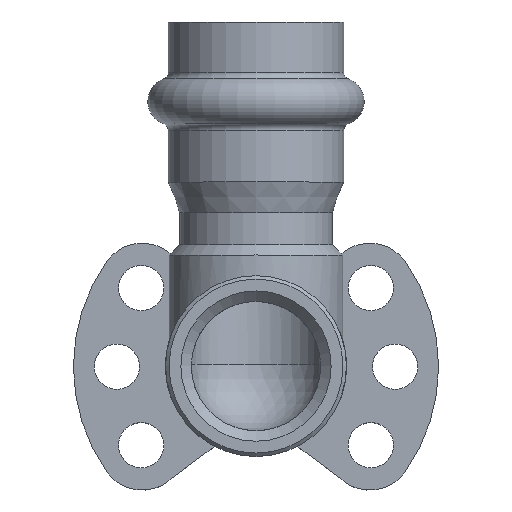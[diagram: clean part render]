
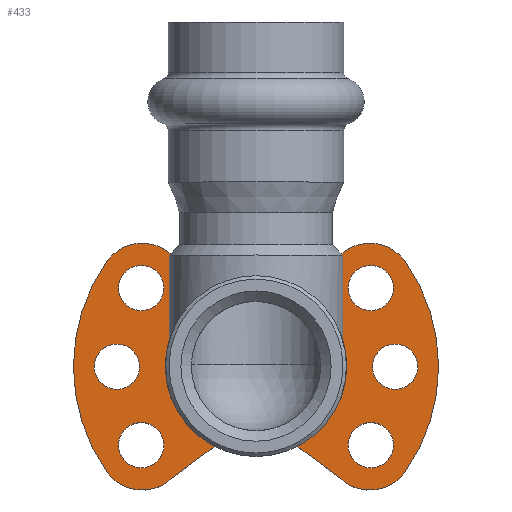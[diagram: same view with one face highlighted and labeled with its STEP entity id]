
A CAD part, top view. The second image highlights one B-rep face of the part: STEP entity #433.
In plain terms, the highlighted planar face has unit normal (0, 0, 1).
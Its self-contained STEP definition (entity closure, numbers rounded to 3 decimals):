
#433=ADVANCED_FACE('',(#3344,#3346,#3348,#3350,#3352,#3354,#3356),#3358,.F.);
#3344=FACE_BOUND('',#3345,.T.);
#3345=EDGE_LOOP('',(#8225,#8226,#8227,#8228,#8229,#8230,#8231,#8232,#8233,#8234,
#8235,#8236,#8237,#8238,#8239,#8240,#8241,#8242));
#3346=FACE_BOUND('',#3347,.T.);
#3347=EDGE_LOOP('',(#8243));
#3348=FACE_BOUND('',#3349,.T.);
#3349=EDGE_LOOP('',(#8244));
#3350=FACE_BOUND('',#3351,.T.);
#3351=EDGE_LOOP('',(#8245));
#3352=FACE_BOUND('',#3353,.T.);
#3353=EDGE_LOOP('',(#8246));
#3354=FACE_BOUND('',#3355,.T.);
#3355=EDGE_LOOP('',(#8247));
#3356=FACE_BOUND('',#3357,.T.);
#3357=EDGE_LOOP('',(#8248));
#3358=PLANE('',#3359);
#3359=AXIS2_PLACEMENT_3D('',#3360,#3361,#3362);
#3360=CARTESIAN_POINT('',(0.,0.,-16.));
#3361=DIRECTION('',(0.,0.,-1.));
#3362=DIRECTION('',(-1.,0.,0.));
#8225=ORIENTED_EDGE('',*,*,#11106,.F.);
#8226=ORIENTED_EDGE('',*,*,#11104,.T.);
#8227=ORIENTED_EDGE('',*,*,#11101,.F.);
#8228=ORIENTED_EDGE('',*,*,#11636,.F.);
#8229=ORIENTED_EDGE('',*,*,#11637,.F.);
#8230=ORIENTED_EDGE('',*,*,#11638,.F.);
#8231=ORIENTED_EDGE('',*,*,#11639,.F.);
#8232=ORIENTED_EDGE('',*,*,#11640,.F.);
#8233=ORIENTED_EDGE('',*,*,#11641,.T.);
#8234=ORIENTED_EDGE('',*,*,#11642,.T.);
#8235=ORIENTED_EDGE('',*,*,#11643,.T.);
#8236=ORIENTED_EDGE('',*,*,#11644,.T.);
#8237=ORIENTED_EDGE('',*,*,#11645,.T.);
#8238=ORIENTED_EDGE('',*,*,#11646,.T.);
#8239=ORIENTED_EDGE('',*,*,#11097,.T.);
#8240=ORIENTED_EDGE('',*,*,#11095,.T.);
#8241=ORIENTED_EDGE('',*,*,#11109,.F.);
#8242=ORIENTED_EDGE('',*,*,#11107,.T.);
#8243=ORIENTED_EDGE('',*,*,#11647,.T.);
#8244=ORIENTED_EDGE('',*,*,#11648,.T.);
#8245=ORIENTED_EDGE('',*,*,#11649,.T.);
#8246=ORIENTED_EDGE('',*,*,#11650,.F.);
#8247=ORIENTED_EDGE('',*,*,#11651,.F.);
#8248=ORIENTED_EDGE('',*,*,#11652,.F.);
#11095=EDGE_CURVE('',#13804,#13802,#13805,.T.);
#11097=EDGE_CURVE('',#13807,#13804,#13808,.T.);
#11101=EDGE_CURVE('',#13813,#13815,#13816,.T.);
#11104=EDGE_CURVE('',#13818,#13815,#13820,.F.);
#11106=EDGE_CURVE('',#13818,#13821,#13823,.F.);
#11107=EDGE_CURVE('',#13824,#13821,#13825,.F.);
#11109=EDGE_CURVE('',#13824,#13802,#13827,.F.);
#11636=EDGE_CURVE('',#14650,#13813,#14651,.T.);
#11637=EDGE_CURVE('',#14652,#14650,#14653,.T.);
#11638=EDGE_CURVE('',#14654,#14652,#14655,.T.);
#11639=EDGE_CURVE('',#14656,#14654,#14657,.T.);
#11640=EDGE_CURVE('',#14658,#14656,#14659,.T.);
#11641=EDGE_CURVE('',#14658,#14660,#14661,.T.);
#11642=EDGE_CURVE('',#14660,#14662,#14663,.T.);
#11643=EDGE_CURVE('',#14662,#14664,#14665,.T.);
#11644=EDGE_CURVE('',#14664,#14666,#14667,.T.);
#11645=EDGE_CURVE('',#14666,#14668,#14669,.T.);
#11646=EDGE_CURVE('',#14668,#13807,#14670,.T.);
#11647=EDGE_CURVE('',#14671,#14671,#14672,.T.);
#11648=EDGE_CURVE('',#14673,#14673,#14674,.T.);
#11649=EDGE_CURVE('',#14675,#14675,#14676,.T.);
#11650=EDGE_CURVE('',#14677,#14677,#14678,.T.);
#11651=EDGE_CURVE('',#14679,#14679,#14680,.T.);
#11652=EDGE_CURVE('',#14681,#14681,#14682,.T.);
#13802=VERTEX_POINT('',#22558);
#13804=VERTEX_POINT('',#22562);
#13805=LINE('',#22563,#22564);
#13807=VERTEX_POINT('',#22569);
#13808=LINE('',#22570,#22571);
#13813=VERTEX_POINT('',#22581);
#13815=VERTEX_POINT('',#22585);
#13816=LINE('',#22586,#22587);
#13818=VERTEX_POINT('',#22592);
#13820=LINE('',#22596,#22597);
#13821=VERTEX_POINT('',#22599);
#13823=CIRCLE('',#22603,1.);
#13824=VERTEX_POINT('',#22607);
#13825=LINE('',#22608,#22609);
#13827=CIRCLE('',#22614,1.);
#14650=VERTEX_POINT('',#27028);
#14651=LINE('',#27029,#27030);
#14652=VERTEX_POINT('',#27032);
#14653=CIRCLE('',#27033,6.25);
#14654=VERTEX_POINT('',#27037);
#14655=CIRCLE('',#27038,26.25);
#14656=VERTEX_POINT('',#27042);
#14657=CIRCLE('',#27043,6.25);
#14658=VERTEX_POINT('',#27047);
#14659=LINE('',#27048,#27049);
#14660=VERTEX_POINT('',#27051);
#14661=LINE('',#27052,#27053);
#14662=VERTEX_POINT('',#27055);
#14663=LINE('',#27056,#27057);
#14664=VERTEX_POINT('',#27059);
#14665=CIRCLE('',#27060,6.25);
#14666=VERTEX_POINT('',#27064);
#14667=CIRCLE('',#27065,26.25);
#14668=VERTEX_POINT('',#27069);
#14669=CIRCLE('',#27070,6.25);
#14670=LINE('',#27074,#27075);
#14671=VERTEX_POINT('',#27077);
#14672=CIRCLE('',#27078,3.25);
#14673=VERTEX_POINT('',#27082);
#14674=CIRCLE('',#27083,3.25);
#14675=VERTEX_POINT('',#27087);
#14676=CIRCLE('',#27088,3.25);
#14677=VERTEX_POINT('',#27092);
#14678=CIRCLE('',#27093,3.25);
#14679=VERTEX_POINT('',#27097);
#14680=CIRCLE('',#27098,3.25);
#14681=VERTEX_POINT('',#27102);
#14682=CIRCLE('',#27103,3.25);
#22558=CARTESIAN_POINT('',(4.,-4.25,-16.));
#22562=CARTESIAN_POINT('',(4.,10.75,-16.));
#22563=CARTESIAN_POINT('',(4.,10.75,-16.));
#22564=VECTOR('',#22565,1.);
#22565=DIRECTION('',(0.,-1.,0.));
#22569=CARTESIAN_POINT('',(5.,10.75,-16.));
#22570=CARTESIAN_POINT('',(5.,10.75,-16.));
#22571=VECTOR('',#22572,1.);
#22572=DIRECTION('',(-1.,0.,0.));
#22581=CARTESIAN_POINT('',(-5.,10.75,-16.));
#22585=CARTESIAN_POINT('',(-4.,10.75,-16.));
#22586=CARTESIAN_POINT('',(-5.,10.75,-16.));
#22587=VECTOR('',#22588,1.);
#22588=DIRECTION('',(1.,0.,0.));
#22592=CARTESIAN_POINT('',(-4.,-4.25,-16.));
#22596=CARTESIAN_POINT('',(-4.,10.75,-16.));
#22597=VECTOR('',#22598,1.);
#22598=DIRECTION('',(0.,-1.,0.));
#22599=CARTESIAN_POINT('',(-3.,-5.25,-16.));
#22603=AXIS2_PLACEMENT_3D('',#22604,#22605,#22606);
#22604=CARTESIAN_POINT('',(-3.,-4.25,-16.));
#22605=DIRECTION('',(0.,0.,-1.));
#22606=DIRECTION('',(0.,-1.,0.));
#22607=CARTESIAN_POINT('',(3.,-5.25,-16.));
#22608=CARTESIAN_POINT('',(-3.,-5.25,-16.));
#22609=VECTOR('',#22610,1.);
#22610=DIRECTION('',(1.,0.,0.));
#22614=AXIS2_PLACEMENT_3D('',#22615,#22616,#22617);
#22615=CARTESIAN_POINT('',(3.,-4.25,-16.));
#22616=DIRECTION('',(0.,0.,-1.));
#22617=DIRECTION('',(1.,0.,0.));
#27028=CARTESIAN_POINT('',(-12.019,15.993,-16.));
#27029=CARTESIAN_POINT('',(-12.019,15.993,-16.));
#27030=VECTOR('',#27031,1.);
#27031=DIRECTION('',(0.801,-0.598,0.));
#27032=CARTESIAN_POINT('',(-21.477,15.094,-16.));
#27033=AXIS2_PLACEMENT_3D('',#27034,#27035,#27036);
#27034=CARTESIAN_POINT('',(-16.363,11.5,-16.));
#27035=DIRECTION('',(0.,0.,-1.));
#27036=DIRECTION('',(-0.818,0.575,0.));
#27037=CARTESIAN_POINT('',(-21.477,-15.094,-16.));
#27038=AXIS2_PLACEMENT_3D('',#27039,#27040,#27041);
#27039=CARTESIAN_POINT('',(0.,0.,-16.));
#27040=DIRECTION('',(0.,0.,-1.));
#27041=DIRECTION('',(-0.818,-0.575,0.));
#27042=CARTESIAN_POINT('',(-12.019,-15.993,-16.));
#27043=AXIS2_PLACEMENT_3D('',#27044,#27045,#27046);
#27044=CARTESIAN_POINT('',(-16.363,-11.5,-16.));
#27045=DIRECTION('',(0.,0.,-1.));
#27046=DIRECTION('',(0.695,-0.719,0.));
#27047=CARTESIAN_POINT('',(-5.,-10.75,-16.));
#27048=CARTESIAN_POINT('',(-5.,-10.75,-16.));
#27049=VECTOR('',#27050,1.);
#27050=DIRECTION('',(-0.801,-0.598,0.));
#27051=CARTESIAN_POINT('',(5.,-10.75,-16.));
#27052=CARTESIAN_POINT('',(-5.,-10.75,-16.));
#27053=VECTOR('',#27054,1.);
#27054=DIRECTION('',(1.,0.,0.));
#27055=CARTESIAN_POINT('',(12.019,-15.993,-16.));
#27056=CARTESIAN_POINT('',(5.,-10.75,-16.));
#27057=VECTOR('',#27058,1.);
#27058=DIRECTION('',(0.801,-0.598,0.));
#27059=CARTESIAN_POINT('',(21.477,-15.094,-16.));
#27060=AXIS2_PLACEMENT_3D('',#27061,#27062,#27063);
#27061=CARTESIAN_POINT('',(16.363,-11.5,-16.));
#27062=DIRECTION('',(0.,0.,1.));
#27063=DIRECTION('',(-0.695,-0.719,0.));
#27064=CARTESIAN_POINT('',(21.477,15.094,-16.));
#27065=AXIS2_PLACEMENT_3D('',#27066,#27067,#27068);
#27066=CARTESIAN_POINT('',(0.,0.,-16.));
#27067=DIRECTION('',(0.,0.,1.));
#27068=DIRECTION('',(0.818,-0.575,0.));
#27069=CARTESIAN_POINT('',(12.019,15.993,-16.));
#27070=AXIS2_PLACEMENT_3D('',#27071,#27072,#27073);
#27071=CARTESIAN_POINT('',(16.363,11.5,-16.));
#27072=DIRECTION('',(0.,0.,1.));
#27073=DIRECTION('',(0.818,0.575,0.));
#27074=CARTESIAN_POINT('',(12.019,15.993,-16.));
#27075=VECTOR('',#27076,1.);
#27076=DIRECTION('',(-0.801,-0.598,0.));
#27077=CARTESIAN_POINT('',(-19.75,-11.303,-16.));
#27078=AXIS2_PLACEMENT_3D('',#27079,#27080,#27081);
#27079=CARTESIAN_POINT('',(-16.5,-11.303,-16.));
#27080=DIRECTION('',(0.,0.,-1.));
#27081=DIRECTION('',(-1.,0.,0.));
#27082=CARTESIAN_POINT('',(-19.75,11.303,-16.));
#27083=AXIS2_PLACEMENT_3D('',#27084,#27085,#27086);
#27084=CARTESIAN_POINT('',(-16.5,11.303,-16.));
#27085=DIRECTION('',(0.,0.,-1.));
#27086=DIRECTION('',(-1.,0.,0.));
#27087=CARTESIAN_POINT('',(-23.25,0.,-16.));
#27088=AXIS2_PLACEMENT_3D('',#27089,#27090,#27091);
#27089=CARTESIAN_POINT('',(-20.,0.,-16.));
#27090=DIRECTION('',(0.,0.,-1.));
#27091=DIRECTION('',(-1.,0.,0.));
#27092=CARTESIAN_POINT('',(23.25,0.,-16.));
#27093=AXIS2_PLACEMENT_3D('',#27094,#27095,#27096);
#27094=CARTESIAN_POINT('',(20.,0.,-16.));
#27095=DIRECTION('',(0.,0.,1.));
#27096=DIRECTION('',(1.,0.,0.));
#27097=CARTESIAN_POINT('',(19.75,11.303,-16.));
#27098=AXIS2_PLACEMENT_3D('',#27099,#27100,#27101);
#27099=CARTESIAN_POINT('',(16.5,11.303,-16.));
#27100=DIRECTION('',(0.,0.,1.));
#27101=DIRECTION('',(1.,0.,0.));
#27102=CARTESIAN_POINT('',(19.75,-11.303,-16.));
#27103=AXIS2_PLACEMENT_3D('',#27104,#27105,#27106);
#27104=CARTESIAN_POINT('',(16.5,-11.303,-16.));
#27105=DIRECTION('',(0.,0.,1.));
#27106=DIRECTION('',(1.,0.,0.));
